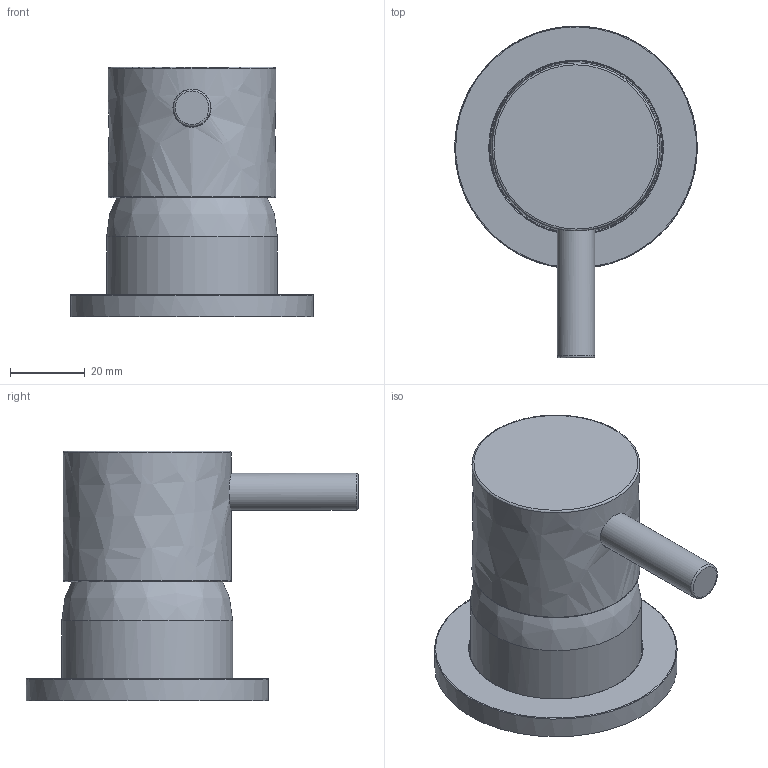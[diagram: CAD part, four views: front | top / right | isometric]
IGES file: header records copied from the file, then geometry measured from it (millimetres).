
Global section: file name: PR52FB201; native system: Autodesk Inventor 2017; preprocessor: unknown; author: PIZZERA; date: 20210408.162325; units: millimetre
Bounding box: 65 x 88.99 x 66.95 mm (x, y, z)
Volume: 119413 mm3; surface area: 18930.6 mm2
Topology: 1 solids, 2 shells, 26 faces, 61 edges, 44 vertices
Faces by surface type: bspline 26
